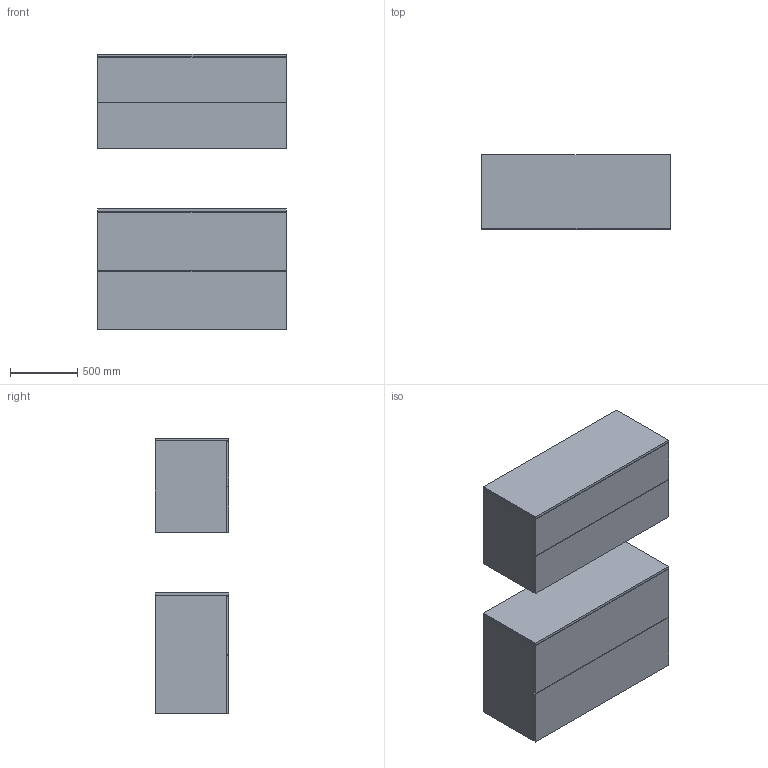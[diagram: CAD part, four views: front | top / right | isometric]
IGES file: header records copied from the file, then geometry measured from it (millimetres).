
Global section: file name: \\Archi-NAS\Comune\X GIOVANNI\MOBILI\BOXLINE\BOXLINE_12.igs; native system: Rhinoceros ( Feb 23 2021 ); preprocessor: Trout Lake IGES 012 Feb 23 2021; date: 230607.153416; units: millimetre
Bounding box: 1400 x 550 x 2051.32 mm (x, y, z)
Surface area: 27219780 mm2 (no closed solid volume)
Topology: 0 solids, 0 shells, 204 faces, 816 edges, 816 vertices
Faces by surface type: bspline 204
